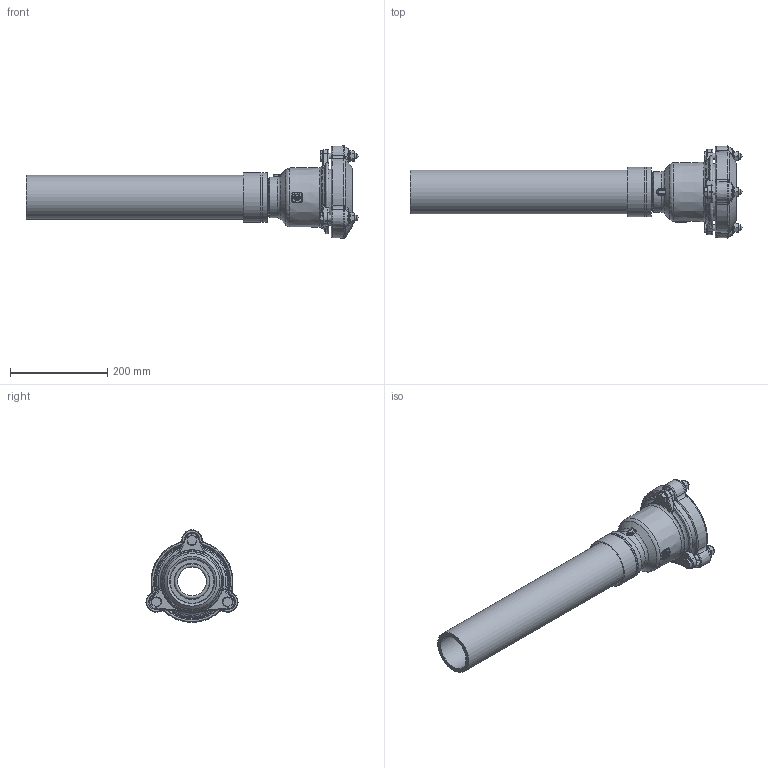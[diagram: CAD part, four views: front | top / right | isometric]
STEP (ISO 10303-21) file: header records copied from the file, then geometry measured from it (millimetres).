
FILE_DESCRIPTION((''),'2;1');
FILE_NAME('P:\Fastrack\54361_VIKING JOHNSON 3D\ULTRAGRIP\Component Parts\Components Built up\Pecatadaptor\80MM-UltraGrip-Pecat-Adaptor.stp','2012-05-08T09:18:24',('dcole'),(''),'Autodesk Inventor 2008','Autodesk Inventor 2008','');
FILE_SCHEMA(('AUTOMOTIVE_DESIGN { 1 0 10303 214 1 1 1 1 }'));
Length unit declared in the file: millimetre
Products named in the file (1): 80MM-UltraGrip-Pecat-Adaptor
Bounding box: 682 x 189.18 x 189.85 mm (x, y, z)
Surface area: 504429.3 mm2 (no closed solid volume)
Topology: 0 solids, 1 shells, 521 faces, 1391 edges, 882 vertices
Faces by surface type: plane 130, cone 122, cylinder 94, bspline 93, torus 82
Full cylindrical faces by diameter (mm): 11.75 x3, 12 x3, 13 x1, 15.19 x3, 16 x3, 24 x3, 59 x1, 72.65 x1, 73.6 x2, 90 x2, 91.8 x2, 101.8 x3, 106.5 x1, 108.5 x3, 115.5 x1
Entity records: 26130 total; most frequent: CARTESIAN_POINT 14070, ORIENTED_EDGE 2500, DIRECTION 2154, EDGE_CURVE 1250, AXIS2_PLACEMENT_3D 925, VERTEX_POINT 830, EDGE_LOOP 624, STYLED_ITEM 517
